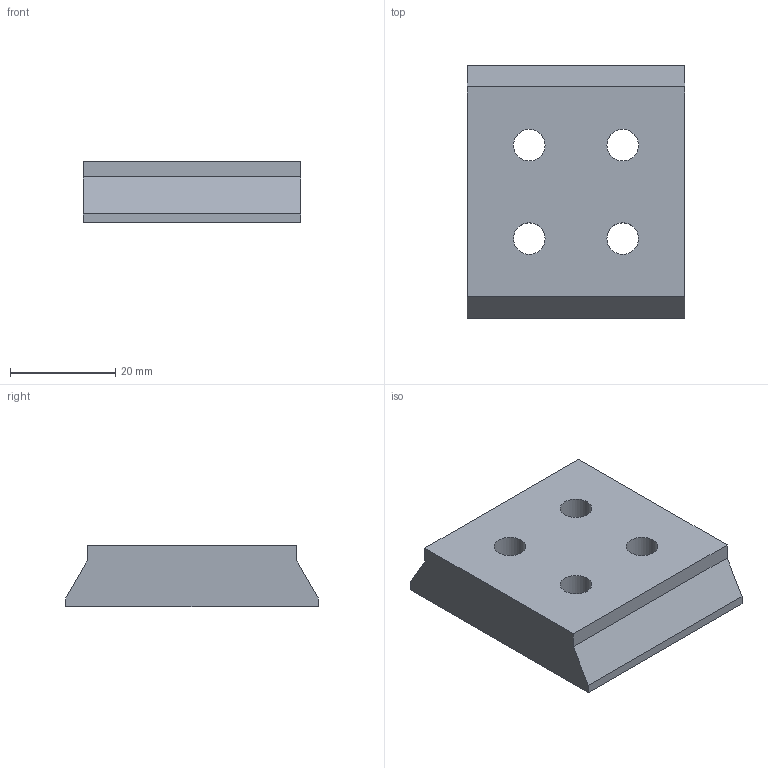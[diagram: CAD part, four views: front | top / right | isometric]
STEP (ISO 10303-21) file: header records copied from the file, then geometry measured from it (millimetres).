
FILE_DESCRIPTION(/* description */ (''),/* implementation_level */ '2;1');
FILE_NAME(/* name */ 'tripodAdapter.stp',/* time_stamp */ '2022-09-12T11:30:51-04:00',/* author */ (''),/* organization */ (''),/* preprocessor_version */ 'ST-DEVELOPER v18.1',/* originating_system */ 'SIEMENS PLM Software NX 1953',/* authorisation */ '');
FILE_SCHEMA (('AUTOMOTIVE_DESIGN { 1 0 10303 214 3 1 1 1 }'));
Length unit declared in the file: millimetre
Products named in the file (1): tripodAdapter
Bounding box: 41.25 x 47.8 x 11.7 mm (x, y, z)
Volume: 18917.9 mm3; surface area: 6525.4 mm2
Topology: 1 solids, 1 shells, 22 faces, 52 edges, 36 vertices
Faces by surface type: plane 14, cylinder 8
Full cylindrical faces by diameter (mm): 6 x4, 8.5 x4
Entity records: 608 total; most frequent: DIRECTION 102, CARTESIAN_POINT 95, ORIENTED_EDGE 80, EDGE_LOOP 42, EDGE_CURVE 40, AXIS2_PLACEMENT_3D 39, FACE_BOUND 34, VERTEX_POINT 32
